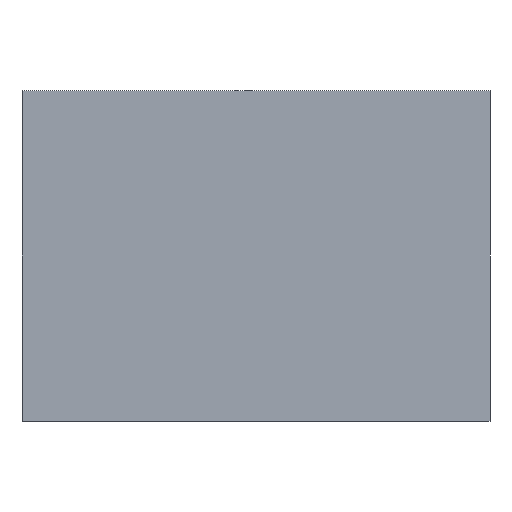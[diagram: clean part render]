
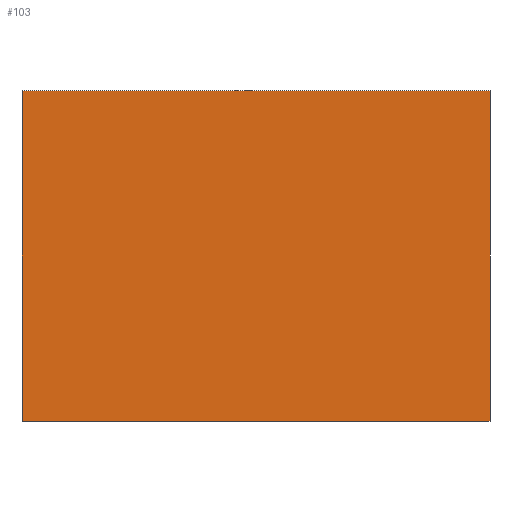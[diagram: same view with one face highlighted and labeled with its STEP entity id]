
A CAD part, front view. The second image highlights one B-rep face of the part: STEP entity #103.
In plain terms, the highlighted planar face has unit normal (0, -1, 0).
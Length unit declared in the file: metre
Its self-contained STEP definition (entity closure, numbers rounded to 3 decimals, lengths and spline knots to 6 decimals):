
#32=ORIENTED_EDGE('',*,*,#36,.T.);
#33=ORIENTED_EDGE('',*,*,#46,.T.);
#34=ORIENTED_EDGE('',*,*,#43,.F.);
#35=ORIENTED_EDGE('',*,*,#40,.F.);
#36=EDGE_CURVE('',#48,#49,#56,.T.);
#40=EDGE_CURVE('',#48,#52,#60,.T.);
#43=EDGE_CURVE('',#52,#54,#63,.T.);
#46=EDGE_CURVE('',#49,#54,#66,.T.);
#48=VERTEX_POINT('',#152);
#49=VERTEX_POINT('',#153);
#52=VERTEX_POINT('',#161);
#54=VERTEX_POINT('',#167);
#56=LINE('',#151,#68);
#60=LINE('',#160,#72);
#63=LINE('',#166,#75);
#66=LINE('',#172,#78);
#68=VECTOR('',#127,1.);
#72=VECTOR('',#133,1.);
#75=VECTOR('',#138,1.);
#78=VECTOR('',#143,1.);
#85=EDGE_LOOP('',(#32,#33,#34,#35));
#91=FACE_BOUND('',#85,.T.);
#97=PLANE('',#122);
#103=ADVANCED_FACE('',(#91),#97,.F.);
#122=AXIS2_PLACEMENT_3D('',#175,#147,#148);
#127=DIRECTION('',(-1.,0.,0.));
#133=DIRECTION('',(0.,0.,-1.));
#138=DIRECTION('',(-1.,0.,0.));
#143=DIRECTION('',(0.,0.,-1.));
#147=DIRECTION('',(0.,1.,0.));
#148=DIRECTION('',(-1.,0.,0.));
#151=CARTESIAN_POINT('',(-0.043064,-0.083009,0.124244));
#152=CARTESIAN_POINT('',(0.166936,-0.083009,0.124244));
#153=CARTESIAN_POINT('',(-0.253064,-0.083009,0.124244));
#160=CARTESIAN_POINT('',(0.166936,-0.083009,-0.024256));
#161=CARTESIAN_POINT('',(0.166936,-0.083009,-0.172756));
#166=CARTESIAN_POINT('',(-0.043064,-0.083009,-0.172756));
#167=CARTESIAN_POINT('',(-0.253064,-0.083009,-0.172756));
#172=CARTESIAN_POINT('',(-0.253064,-0.083009,-0.024256));
#175=CARTESIAN_POINT('',(-0.043064,-0.083009,-0.024256));
